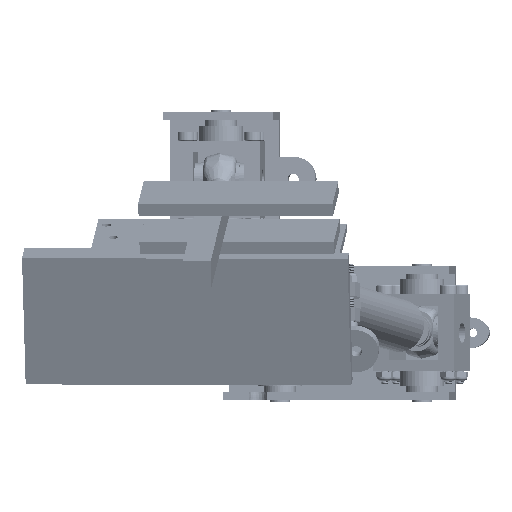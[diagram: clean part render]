
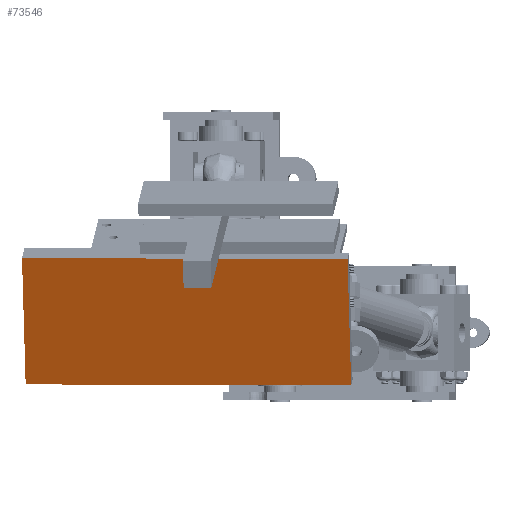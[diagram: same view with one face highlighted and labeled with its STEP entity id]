
A CAD part, front view. The second image highlights one B-rep face of the part: STEP entity #73546.
In plain terms, the highlighted planar face has unit normal (-0.084, -0.936, -0.341) as drawn and (0, 0, -1) by its records, which use the part's own axes.
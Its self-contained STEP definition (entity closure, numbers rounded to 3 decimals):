
#8726=PLANE('',#79689);
#9694=FACE_OUTER_BOUND('',#14290,.T.);
#14290=EDGE_LOOP('',(#47890,#47891,#47892,#47893));
#19311=LINE('',#103214,#22928);
#19312=LINE('',#103216,#22929);
#19313=LINE('',#103218,#22930);
#19314=LINE('',#103219,#22931);
#22928=VECTOR('',#86356,10.);
#22929=VECTOR('',#86357,10.);
#22930=VECTOR('',#86358,10.);
#22931=VECTOR('',#86359,10.);
#28733=VERTEX_POINT('',#103212);
#28734=VERTEX_POINT('',#103213);
#28735=VERTEX_POINT('',#103215);
#28736=VERTEX_POINT('',#103217);
#36223=EDGE_CURVE('',#28733,#28734,#19311,.T.);
#36224=EDGE_CURVE('',#28733,#28735,#19312,.T.);
#36225=EDGE_CURVE('',#28736,#28735,#19313,.T.);
#36226=EDGE_CURVE('',#28734,#28736,#19314,.T.);
#47890=ORIENTED_EDGE('',*,*,#36223,.F.);
#47891=ORIENTED_EDGE('',*,*,#36224,.T.);
#47892=ORIENTED_EDGE('',*,*,#36225,.F.);
#47893=ORIENTED_EDGE('',*,*,#36226,.F.);
#73546=ADVANCED_FACE('',(#9694),#8726,.F.);
#79689=AXIS2_PLACEMENT_3D('',#103211,#86354,#86355);
#86354=DIRECTION('center_axis',(0.,0.,
1.));
#86355=DIRECTION('ref_axis',(1.,0.,0.));
#86356=DIRECTION('',(-0.004,1.,0.));
#86357=DIRECTION('',(-1.,-0.004,0.));
#86358=DIRECTION('',(0.004,-1.,0.));
#86359=DIRECTION('',(-1.,-0.004,0.));
#103211=CARTESIAN_POINT('Origin',(154.072,814.023,243.482));
#103212=CARTESIAN_POINT('',(166.264,772.033,243.482));
#103213=CARTESIAN_POINT('',(166.052,830.611,243.482));
#103214=CARTESIAN_POINT('',(166.076,823.911,243.482));
#103215=CARTESIAN_POINT('',(142.185,771.946,243.482));
#103216=CARTESIAN_POINT('',(148.204,771.968,243.482));
#103217=CARTESIAN_POINT('',(141.973,830.524,243.482));
#103218=CARTESIAN_POINT('',(141.997,823.824,243.482));
#103219=CARTESIAN_POINT('',(154.012,830.568,243.482));
